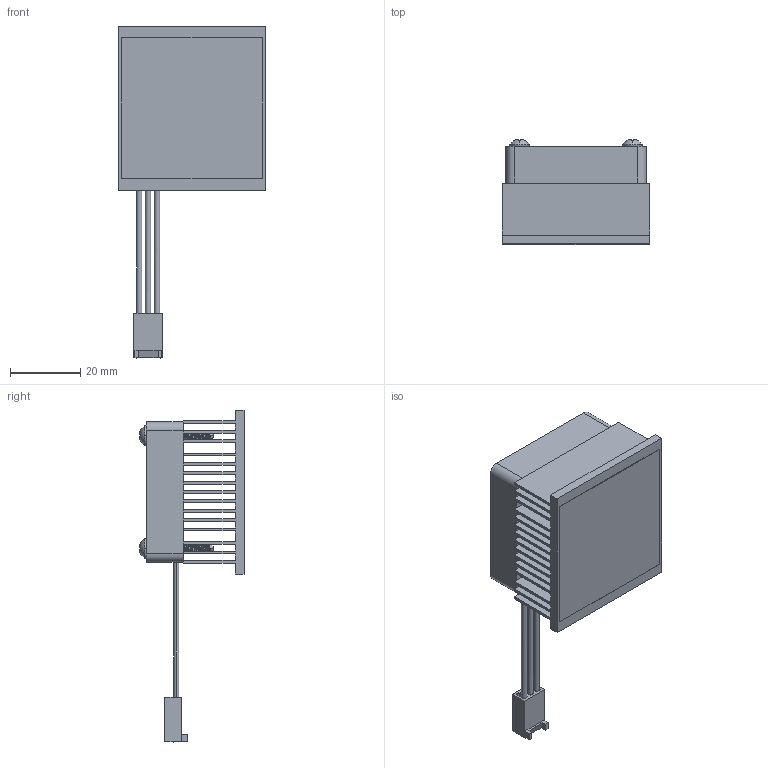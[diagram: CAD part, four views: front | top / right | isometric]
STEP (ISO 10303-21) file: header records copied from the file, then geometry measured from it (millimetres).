
FILE_DESCRIPTION (( 'STEP AP214' ), '1' );
FILE_NAME ('FA47.5.STEP', '2023-03-07T16:41:25', ( '' ), ( '' ), 'SwSTEP 2.0', 'SolidWorks 2020', '' );
FILE_SCHEMA (( 'AUTOMOTIVE_DESIGN' ));
Length unit declared in the file: millimetre
Products named in the file (1): FA47.5
Bounding box: 42 x 29.81 x 94.3 mm (x, y, z)
Volume: 21082.5 mm3; surface area: 35947.5 mm2
Topology: 7 solids, 7 shells, 789 faces, 2305 edges, 1532 vertices
Faces by surface type: cylinder 306, plane 273, bspline 158, cone 36, sphere 8, torus 8
Entity records: 43726 total; most frequent: CARTESIAN_POINT 17027, ORIENTED_EDGE 4610, DIRECTION 2897, EDGE_CURVE 2305, VERTEX_POINT 1532, VECTOR 1093, LINE 1093, AXIS2_PLACEMENT_3D 902
